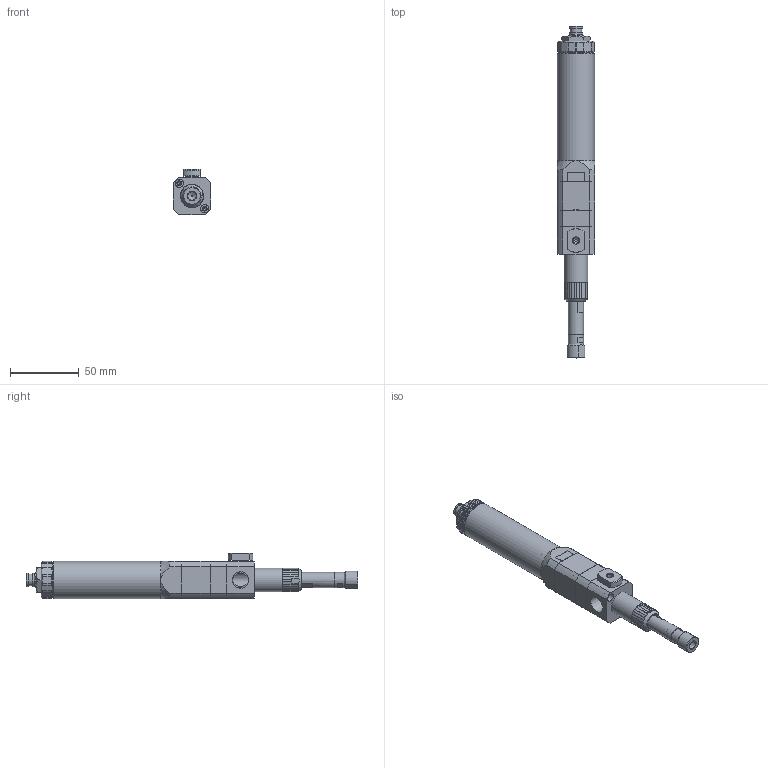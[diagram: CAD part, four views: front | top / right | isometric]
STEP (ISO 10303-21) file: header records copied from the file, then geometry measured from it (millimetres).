
FILE_DESCRIPTION (( 'STEP AP214' ), '1' );
FILE_NAME ('PCP-050-18.STEP', '2024-10-11T11:34:28', ( '' ), ( '' ), 'SwSTEP 2.0', 'SolidWorks 2024', '' );
FILE_SCHEMA (( 'AUTOMOTIVE_DESIGN' ));
Length unit declared in the file: millimetre
Products named in the file (1): PCP-050-18
Bounding box: 27 x 241.4 x 32.8 mm (x, y, z)
Volume: 51443.2 mm3; surface area: 50375.2 mm2
Topology: 26 solids, 26 shells, 770 faces, 2015 edges, 1325 vertices
Faces by surface type: plane 316, cylinder 242, cone 194, bspline 15, torus 3
Full cylindrical faces by diameter (mm): 0.4 x1, 1 x5, 2 x1, 2.5 x6, 2.7 x3, 3 x2, 3.5 x10, 4 x1, 4.2 x1, 4.8 x1, 5.2 x1, 5.8 x4, 6 x3, 6.6 x2, 6.8 x1, 7.2 x1, 7.9 x1, 8 x2, 8.1 x1, 8.2 x1, 8.5 x2, 9 x7, 9.6 x2, 9.7 x1, 10.1 x1, 10.5 x1, 10.8 x2, 11 x3, 11.2 x2, 12 x1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
Entity records: 27197 total; most frequent: CARTESIAN_POINT 10428, DIRECTION 3357, ORIENTED_EDGE 3090, EDGE_CURVE 1545, AXIS2_PLACEMENT_3D 1368, VERTEX_POINT 1147, EDGE_LOOP 1136, FACE_OUTER_BOUND 888
